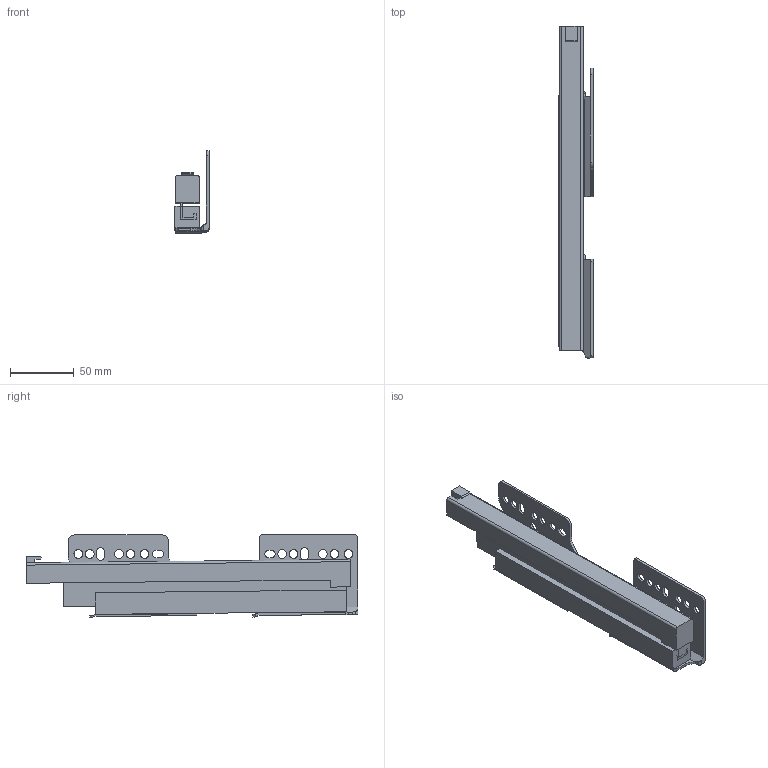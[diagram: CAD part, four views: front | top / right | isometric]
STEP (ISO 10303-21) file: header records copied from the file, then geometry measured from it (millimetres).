
FILE_DESCRIPTION (( 'STEP AP214' ), '1' );
FILE_NAME ('_IMOS_NOVA-Pro_KS_P904_RE_NL270_EB29.step', '2010-07-06T07:17:48', ( 'grass' ), ( '' ), 'SwSTEP 2.0', 'SolidWorks 2009', '' );
FILE_SCHEMA (( 'AUTOMOTIVE_DESIGN' ));
Length unit declared in the file: millimetre
Products named in the file (1): _IMOS_NOVA-Pro_KS_P904_RE_NL270_EB29
Bounding box: 26.75 x 260.49 x 64.46 mm (x, y, z)
Volume: 194059.2 mm3; surface area: 87713.5 mm2
Topology: 6 solids, 6 shells, 144 faces, 392 edges, 260 vertices
Faces by surface type: plane 89, cylinder 55
Entity records: 4691 total; most frequent: CARTESIAN_POINT 848, ORIENTED_EDGE 784, DIRECTION 765, EDGE_CURVE 392, LINE 275, VECTOR 275, VERTEX_POINT 260, AXIS2_PLACEMENT_3D 245
